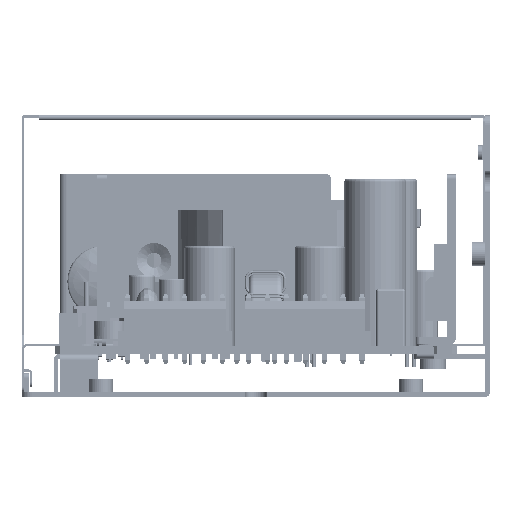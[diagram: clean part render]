
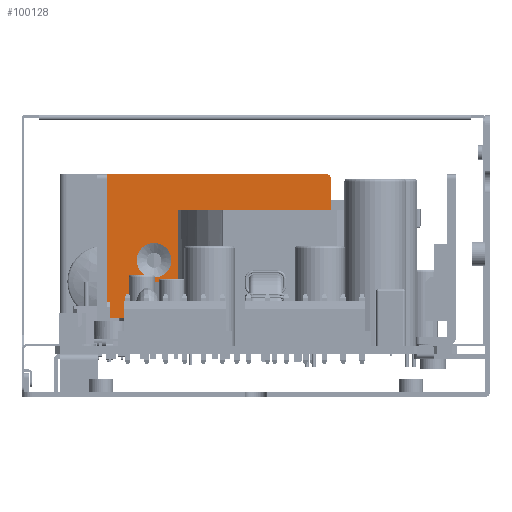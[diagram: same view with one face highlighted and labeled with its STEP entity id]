
A CAD part, left-side view. The second image highlights one B-rep face of the part: STEP entity #100128.
In plain terms, the highlighted planar face has unit normal (-1, 0, 0) as drawn and (0, 0, 1) by its records, which use the part's own axes.
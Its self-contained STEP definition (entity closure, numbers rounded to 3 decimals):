
#98931=DIRECTION('',(1.,0.,0.));
#98932=VECTOR('',#98931,5.2);
#98933=CARTESIAN_POINT('',(42.8,0.,-33.5));
#98934=LINE('',#98933,#98932);
#98947=DIRECTION('',(1.,0.,0.));
#98948=VECTOR('',#98947,20.6);
#98949=CARTESIAN_POINT('',(20.6,0.,-33.5));
#98950=LINE('',#98949,#98948);
#98999=CARTESIAN_POINT('',(11.9,18.,-33.5));
#99000=DIRECTION('',(0.,0.,1.));
#99001=DIRECTION('',(0.,1.,0.));
#99002=AXIS2_PLACEMENT_3D('',#98999,#99000,#99001);
#99004=CARTESIAN_POINT('',(11.9,18.,-33.5));
#99005=DIRECTION('',(0.,0.,1.));
#99006=DIRECTION('',(0.,-1.,0.));
#99007=AXIS2_PLACEMENT_3D('',#99004,#99005,#99006);
#99009=CARTESIAN_POINT('',(24.9,18.,-33.5));
#99010=DIRECTION('',(0.,0.,1.));
#99011=DIRECTION('',(0.,1.,0.));
#99012=AXIS2_PLACEMENT_3D('',#99009,#99010,#99011);
#99014=CARTESIAN_POINT('',(24.9,18.,-33.5));
#99015=DIRECTION('',(0.,0.,1.));
#99016=DIRECTION('',(0.,-1.,0.));
#99017=AXIS2_PLACEMENT_3D('',#99014,#99015,#99016);
#99019=DIRECTION('',(-1.,0.,0.));
#99020=VECTOR('',#99019,2.8);
#99021=CARTESIAN_POINT('',(43.4,9.2,-33.5));
#99022=LINE('',#99021,#99020);
#99023=DIRECTION('',(0.,-1.,0.));
#99024=VECTOR('',#99023,7.5);
#99025=CARTESIAN_POINT('',(39.6,8.2,-33.5));
#99026=LINE('',#99025,#99024);
#99027=DIRECTION('',(1.,0.,0.));
#99028=VECTOR('',#99027,1.1);
#99029=CARTESIAN_POINT('',(40.1,0.2,-33.5));
#99030=LINE('',#99029,#99028);
#99031=DIRECTION('',(0.,1.,0.));
#99032=VECTOR('',#99031,0.2);
#99033=CARTESIAN_POINT('',(41.2,0.,-33.5));
#99034=LINE('',#99033,#99032);
#99035=CARTESIAN_POINT('',(20.6,1.,-33.5));
#99036=DIRECTION('',(0.,0.,1.));
#99037=DIRECTION('',(-1.,0.,0.));
#99038=AXIS2_PLACEMENT_3D('',#99035,#99036,#99037);
#99040=DIRECTION('',(0.,1.,0.));
#99041=VECTOR('',#99040,5.);
#99042=CARTESIAN_POINT('',(19.6,1.,-33.5));
#99043=LINE('',#99042,#99041);
#99044=DIRECTION('',(1.,0.,0.));
#99045=VECTOR('',#99044,17.6);
#99046=CARTESIAN_POINT('',(2.,6.,-33.5));
#99047=LINE('',#99046,#99045);
#99048=DIRECTION('',(0.,1.,0.));
#99049=VECTOR('',#99048,30.);
#99050=CARTESIAN_POINT('',(2.,6.,-33.5));
#99051=LINE('',#99050,#99049);
#99052=CARTESIAN_POINT('',(48.,35.,-33.5));
#99053=DIRECTION('',(0.,0.,1.));
#99054=DIRECTION('',(1.,0.,0.));
#99055=AXIS2_PLACEMENT_3D('',#99052,#99053,#99054);
#99057=CARTESIAN_POINT('',(48.,1.,-33.5));
#99058=DIRECTION('',(0.,0.,1.));
#99059=DIRECTION('',(0.,-1.,0.));
#99060=AXIS2_PLACEMENT_3D('',#99057,#99058,#99059);
#99062=DIRECTION('',(0.,1.,0.));
#99063=VECTOR('',#99062,0.2);
#99064=CARTESIAN_POINT('',(42.8,0.,-33.5));
#99065=LINE('',#99064,#99063);
#99066=DIRECTION('',(1.,0.,0.));
#99067=VECTOR('',#99066,1.1);
#99068=CARTESIAN_POINT('',(42.8,0.2,-33.5));
#99069=LINE('',#99068,#99067);
#99070=DIRECTION('',(0.,1.,0.));
#99071=VECTOR('',#99070,7.5);
#99072=CARTESIAN_POINT('',(44.4,0.7,-33.5));
#99073=LINE('',#99072,#99071);
#99170=DIRECTION('',(0.707,-0.707,0.));
#99171=VECTOR('',#99170,1.414);
#99172=CARTESIAN_POINT('',(43.4,9.2,-33.5));
#99173=LINE('',#99172,#99171);
#99182=CARTESIAN_POINT('',(43.9,0.7,-33.5));
#99183=DIRECTION('',(0.,0.,-1.));
#99184=DIRECTION('',(1.,0.,0.));
#99185=AXIS2_PLACEMENT_3D('',#99182,#99183,#99184);
#99241=CARTESIAN_POINT('',(40.1,0.7,-33.5));
#99242=DIRECTION('',(0.,0.,-1.));
#99243=DIRECTION('',(0.,-1.,0.));
#99244=AXIS2_PLACEMENT_3D('',#99241,#99242,#99243);
#99254=DIRECTION('',(0.707,0.707,0.));
#99255=VECTOR('',#99254,1.414);
#99256=CARTESIAN_POINT('',(39.6,8.2,-33.5));
#99257=LINE('',#99256,#99255);
#99737=DIRECTION('',(1.,0.,0.));
#99738=VECTOR('',#99737,46.);
#99739=CARTESIAN_POINT('',(2.,36.,-33.5));
#99740=LINE('',#99739,#99738);
#99749=DIRECTION('',(0.,1.,0.));
#99750=VECTOR('',#99749,34.);
#99751=CARTESIAN_POINT('',(49.,1.,-33.5));
#99752=LINE('',#99751,#99750);
#99757=CARTESIAN_POINT('',(2.,6.,-33.5));
#99758=CARTESIAN_POINT('',(19.6,6.,-33.5));
#99759=VERTEX_POINT('',#99757);
#99760=VERTEX_POINT('',#99758);
#99761=CARTESIAN_POINT('',(2.,36.,-33.5));
#99762=VERTEX_POINT('',#99761);
#99777=CARTESIAN_POINT('',(11.9,21.628,-33.5));
#99778=CARTESIAN_POINT('',(11.9,14.372,-33.5));
#99779=VERTEX_POINT('',#99777);
#99780=VERTEX_POINT('',#99778);
#99789=CARTESIAN_POINT('',(24.9,21.628,-33.5));
#99790=CARTESIAN_POINT('',(24.9,14.372,-33.5));
#99791=VERTEX_POINT('',#99789);
#99792=VERTEX_POINT('',#99790);
#99821=CARTESIAN_POINT('',(19.6,1.,-33.5));
#99822=VERTEX_POINT('',#99821);
#99823=CARTESIAN_POINT('',(20.6,0.,-33.5));
#99824=VERTEX_POINT('',#99823);
#99825=CARTESIAN_POINT('',(48.,0.,-33.5));
#99826=CARTESIAN_POINT('',(49.,1.,-33.5));
#99827=VERTEX_POINT('',#99825);
#99828=VERTEX_POINT('',#99826);
#99837=CARTESIAN_POINT('',(49.,35.,-33.5));
#99838=VERTEX_POINT('',#99837);
#99839=CARTESIAN_POINT('',(48.,36.,-33.5));
#99840=VERTEX_POINT('',#99839);
#99849=CARTESIAN_POINT('',(41.2,0.,-33.5));
#99850=CARTESIAN_POINT('',(42.8,0.,-33.5));
#99851=VERTEX_POINT('',#99849);
#99852=VERTEX_POINT('',#99850);
#99861=CARTESIAN_POINT('',(41.2,0.2,-33.5));
#99862=VERTEX_POINT('',#99861);
#99863=CARTESIAN_POINT('',(42.8,0.2,-33.5));
#99864=VERTEX_POINT('',#99863);
#99886=CARTESIAN_POINT('',(43.9,0.2,-33.5));
#99888=VERTEX_POINT('',#99886);
#99891=CARTESIAN_POINT('',(44.4,0.7,-33.5));
#99892=VERTEX_POINT('',#99891);
#99894=CARTESIAN_POINT('',(39.6,0.7,-33.5));
#99896=VERTEX_POINT('',#99894);
#99899=CARTESIAN_POINT('',(40.1,0.2,-33.5));
#99900=VERTEX_POINT('',#99899);
#99902=CARTESIAN_POINT('',(44.4,8.2,-33.5));
#99904=VERTEX_POINT('',#99902);
#99907=CARTESIAN_POINT('',(43.4,9.2,-33.5));
#99908=VERTEX_POINT('',#99907);
#99910=CARTESIAN_POINT('',(40.6,9.2,-33.5));
#99912=VERTEX_POINT('',#99910);
#99915=CARTESIAN_POINT('',(39.6,8.2,-33.5));
#99916=VERTEX_POINT('',#99915);
#100069=CARTESIAN_POINT('',(2.,0.,-33.5));
#100070=DIRECTION('',(0.,0.,1.));
#100071=DIRECTION('',(1.,0.,0.));
#100072=AXIS2_PLACEMENT_3D('',#100069,#100070,#100071);
#100073=PLANE('',#100072);
#100075=ORIENTED_EDGE('',*,*,#100074,.T.);
#100077=ORIENTED_EDGE('',*,*,#100076,.F.);
#100079=ORIENTED_EDGE('',*,*,#100078,.T.);
#100081=ORIENTED_EDGE('',*,*,#100080,.F.);
#100083=ORIENTED_EDGE('',*,*,#100082,.T.);
#100085=ORIENTED_EDGE('',*,*,#100084,.F.);
#100086=ORIENTED_EDGE('',*,*,#100018,.F.);
#100088=ORIENTED_EDGE('',*,*,#100087,.F.);
#100090=ORIENTED_EDGE('',*,*,#100089,.T.);
#100092=ORIENTED_EDGE('',*,*,#100091,.F.);
#100094=ORIENTED_EDGE('',*,*,#100093,.T.);
#100096=ORIENTED_EDGE('',*,*,#100095,.T.);
#100098=ORIENTED_EDGE('',*,*,#100097,.F.);
#100100=ORIENTED_EDGE('',*,*,#100099,.F.);
#100102=ORIENTED_EDGE('',*,*,#100101,.F.);
#100103=ORIENTED_EDGE('',*,*,#100010,.F.);
#100105=ORIENTED_EDGE('',*,*,#100104,.T.);
#100107=ORIENTED_EDGE('',*,*,#100106,.T.);
#100109=ORIENTED_EDGE('',*,*,#100108,.F.);
#100111=ORIENTED_EDGE('',*,*,#100110,.T.);
#100113=ORIENTED_EDGE('',*,*,#100112,.F.);
#100114=EDGE_LOOP('',(#100075,#100077,#100079,#100081,#100083,#100085,#100086,
#100088,#100090,#100092,#100094,#100096,#100098,#100100,#100102,#100103,#100105,
#100107,#100109,#100111,#100113));
#100115=FACE_OUTER_BOUND('',#100114,.F.);
#100117=ORIENTED_EDGE('',*,*,#100116,.T.);
#100119=ORIENTED_EDGE('',*,*,#100118,.T.);
#100120=EDGE_LOOP('',(#100117,#100119));
#100121=FACE_BOUND('',#100120,.F.);
#100123=ORIENTED_EDGE('',*,*,#100122,.T.);
#100125=ORIENTED_EDGE('',*,*,#100124,.T.);
#100126=EDGE_LOOP('',(#100123,#100125));
#100127=FACE_BOUND('',#100126,.F.);
#99003=CIRCLE('',#99002,3.628);
#99008=CIRCLE('',#99007,3.628);
#99013=CIRCLE('',#99012,3.628);
#99018=CIRCLE('',#99017,3.628);
#99039=CIRCLE('',#99038,1.);
#99056=CIRCLE('',#99055,1.);
#99061=CIRCLE('',#99060,1.);
#99186=CIRCLE('',#99185,0.5);
#99245=CIRCLE('',#99244,0.5);
#100010=EDGE_CURVE('',#99852,#99827,#98934,.T.);
#100018=EDGE_CURVE('',#99824,#99851,#98950,.T.);
#100074=EDGE_CURVE('',#99908,#99912,#99022,.T.);
#100076=EDGE_CURVE('',#99916,#99912,#99257,.T.);
#100078=EDGE_CURVE('',#99916,#99896,#99026,.T.);
#100080=EDGE_CURVE('',#99900,#99896,#99245,.T.);
#100082=EDGE_CURVE('',#99900,#99862,#99030,.T.);
#100084=EDGE_CURVE('',#99851,#99862,#99034,.T.);
#100087=EDGE_CURVE('',#99822,#99824,#99039,.T.);
#100089=EDGE_CURVE('',#99822,#99760,#99043,.T.);
#100091=EDGE_CURVE('',#99759,#99760,#99047,.T.);
#100093=EDGE_CURVE('',#99759,#99762,#99051,.T.);
#100095=EDGE_CURVE('',#99762,#99840,#99740,.T.);
#100097=EDGE_CURVE('',#99838,#99840,#99056,.T.);
#100099=EDGE_CURVE('',#99828,#99838,#99752,.T.);
#100101=EDGE_CURVE('',#99827,#99828,#99061,.T.);
#100104=EDGE_CURVE('',#99852,#99864,#99065,.T.);
#100106=EDGE_CURVE('',#99864,#99888,#99069,.T.);
#100108=EDGE_CURVE('',#99892,#99888,#99186,.T.);
#100110=EDGE_CURVE('',#99892,#99904,#99073,.T.);
#100112=EDGE_CURVE('',#99908,#99904,#99173,.T.);
#100116=EDGE_CURVE('',#99779,#99780,#99003,.T.);
#100118=EDGE_CURVE('',#99780,#99779,#99008,.T.);
#100122=EDGE_CURVE('',#99791,#99792,#99013,.T.);
#100124=EDGE_CURVE('',#99792,#99791,#99018,.T.);
#100128=ADVANCED_FACE('',(#100115,#100121,#100127),#100073,.T.);
